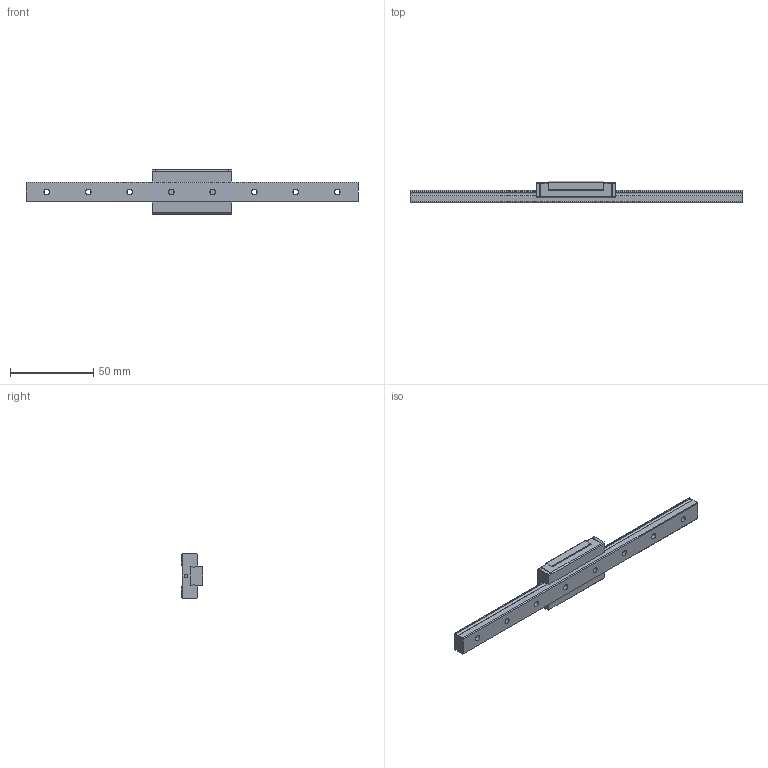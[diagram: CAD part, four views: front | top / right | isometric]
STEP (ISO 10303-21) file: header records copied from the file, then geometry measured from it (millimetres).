
FILE_DESCRIPTION(/* description */ ('STEP AP203'),/* implementation_level */ '2;1');
FILE_NAME(/* name */ 'RSX12NMUU-200LM_G12-5_0_Without grease nipple_76-15_0_0_0_1',/* time_stamp */ '2024-05-21T10:25:39+02:00',/* author */ ('License CC BY-ND 4.0'),/* organization */ ('CADENAS'),/* preprocessor_version */ 'ST-DEVELOPER v19.3',/* originating_system */ 'PARTsolutions',/* authorisation */ ' ');
FILE_SCHEMA (('CONFIG_CONTROL_DESIGN'));
Length unit declared in the file: millimetre
Products named in the file (3): RSX12NMUU-200LM_G12-5_0_Without grease nipple_76-15_0_0_0_1; RSX12M20012.5 Track; RSX12NMUU1 Slider
Assembly tree (2 placements, depth 2):
  RSX12NMUU-200LM_G12-5_0_Without grease nipple_76-15_0_0_0_1
    RSX12M20012.5 Track
    RSX12NMUU1 Slider
Bounding box: 200 x 13 x 27 mm (x, y, z)
Volume: 25901.1 mm3; surface area: 13315.4 mm2
Topology: 2 solids, 2 shells, 130 faces, 334 edges, 220 vertices
Faces by surface type: plane 88, cylinder 34, cone 8
Full cylindrical faces by diameter (mm): 2 x2, 2.459 x4, 3.5 x8, 6 x8
Entity records: 3835 total; most frequent: CARTESIAN_POINT 645, DIRECTION 642, ORIENTED_EDGE 592, EDGE_CURVE 296, VERTEX_POINT 216, LINE 216, VECTOR 216, AXIS2_PLACEMENT_3D 213
